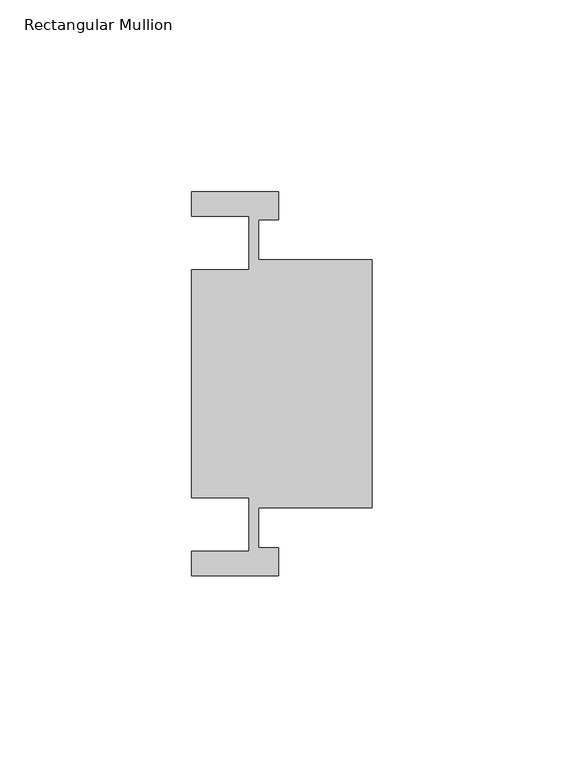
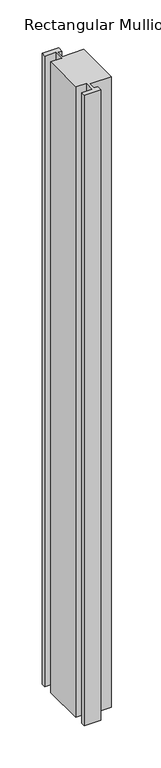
"""IFC4 building model written with IfcOpenShell, lengths in millimetres: member geometry, Rectangular Mullion : Trim-Horizontal-Teknion-Focus-FWDB."""

from ifc_helpers import new_model, si_unit, frame, origin, place, context, project, spatial, polyline, outline, extrude, source, transform, mapped, element, save


def rectangular_mullion_34f2c36c(model_context):
    return source(origin(), model_context, "Body", "SweptSolid", [
        extrude(outline(polyline([(-24.3999916, 49.9999985), (-24.3999916, 42.725), (-29.4999916, 42.725), (-29.4999916, 32.3000006), (0.0, 32.3000006), (0.0, -32.3000006), (-29.4999916, -32.3000006), (-29.4999916, -42.725), (-24.3999916, -42.725), (-24.3999916, -49.9999985), (-47.0, -49.9999985), (-47.0, -43.6999985), (-31.9999916, -43.6999985), (-31.9999916, -29.6999985), (-47.0, -29.6999985), (-47.0, 29.6999985), (-31.9999916, 29.6999985), (-31.9999916, 43.6999985), (-47.0, 43.6999985), (-47.0, 49.9999985), (-24.3999916, 49.9999985)])), frame((0.0, 0.0, -914.4), z_axis=(0.0, 0.0, 1.0), x_axis=(1.0, 0.0, 0.0)), (0.0, 0.0, 1.0), 914.4),
    ])


if __name__ == "__main__":
    model = new_model("IFC4")
    model_context = context("Model", 3, world=origin())
    ifc_project = project(units=[si_unit("LENGTHUNIT", "METRE", prefix="MILLI")], contexts=[model_context])
    site = spatial("IfcSite", under=ifc_project)
    building = spatial("IfcBuilding", under=site)
    placement = place(None, origin())
    rectangular_mullion_shape = rectangular_mullion_34f2c36c(model_context)
    element("IfcMember", 1, ObjectType="Rectangular Mullion : Trim-Horizontal-Teknion-Focus-FWDB", at=placement, inside=building, context=model_context, shape_type="MappedRepresentation", body=[
        mapped(rectangular_mullion_shape, transform((0.0, 0.0, 0.0), x_axis=(1.0, 0.0, 0.0), y_axis=(0.0, 1.0, 0.0), z_axis=(0.0, 0.0, 1.0))),
    ])
    save(model, "model.ifc")
